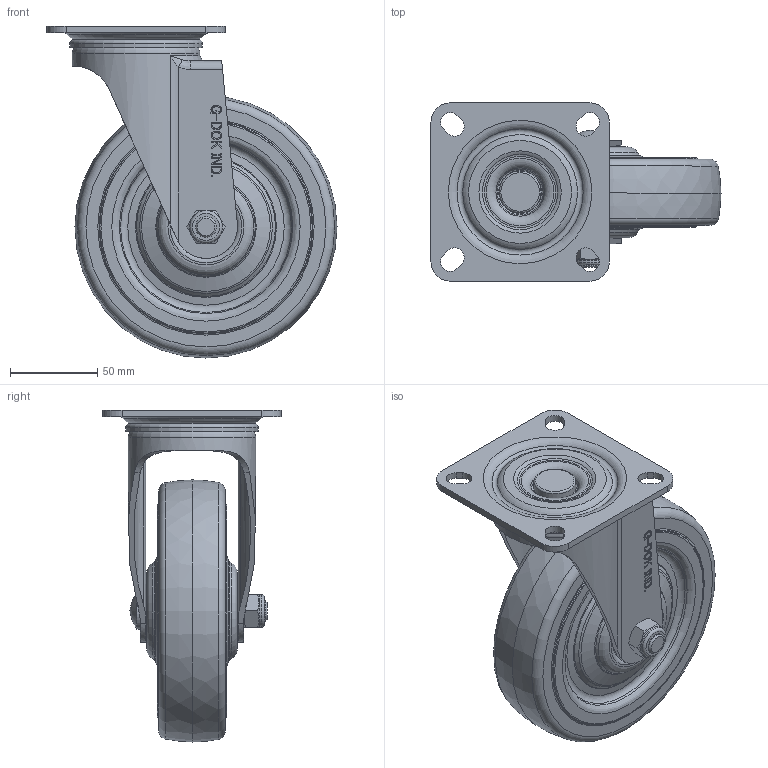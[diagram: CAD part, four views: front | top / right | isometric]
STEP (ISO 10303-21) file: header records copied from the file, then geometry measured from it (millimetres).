
FILE_DESCRIPTION(/* description */ (''),/* implementation_level */ '2;1');
FILE_NAME(/* name */ 'C:\Users\황치선\Desktop\진행도면\\X2\B514C2A4D06CD720\X0\ 홈피용 도면\1\RT1-150-ASF-DISK WHEEL.stp',/* time_stamp */ '2016-03-26T10:43:31+09:00',/* author */ ('황치선'),/* organization */ (''),/* preprocessor_version */ 'ST-DEVELOPER v15.6',/* originating_system */ 'Autodesk Inventor 2015',/* authorisation */ '');
FILE_SCHEMA (('AUTOMOTIVE_DESIGN { 1 0 10303 214 3 1 1 }'));
Length unit declared in the file: centimetre
Products named in the file (1): RT1-150-ASF-DISK WHEEL
Bounding box: 166 x 102 x 190 mm (x, y, z)
Volume: 429839.9 mm3; surface area: 163007.9 mm2
Topology: 1 solids, 3 shells, 548 faces, 1416 edges, 900 vertices
Faces by surface type: plane 219, torus 117, bspline 88, cylinder 76, cone 34, sphere 14
Full cylindrical faces by diameter (mm): 12 x1, 18.5 x1, 19.8 x1, 21 x1, 21.4 x4, 24 x2, 24.4 x1, 26 x2, 28.6 x4, 29 x2, 35 x4, 38 x2, 54.5 x1, 67 x1, 73 x1, 75.8 x1, 119 x2
Entity records: 18093 total; most frequent: CARTESIAN_POINT 5688, ORIENTED_EDGE 2456, DIRECTION 2122, EDGE_CURVE 1222, VERTEX_POINT 855, AXIS2_PLACEMENT_3D 801, EDGE_LOOP 767, STYLED_ITEM 549
